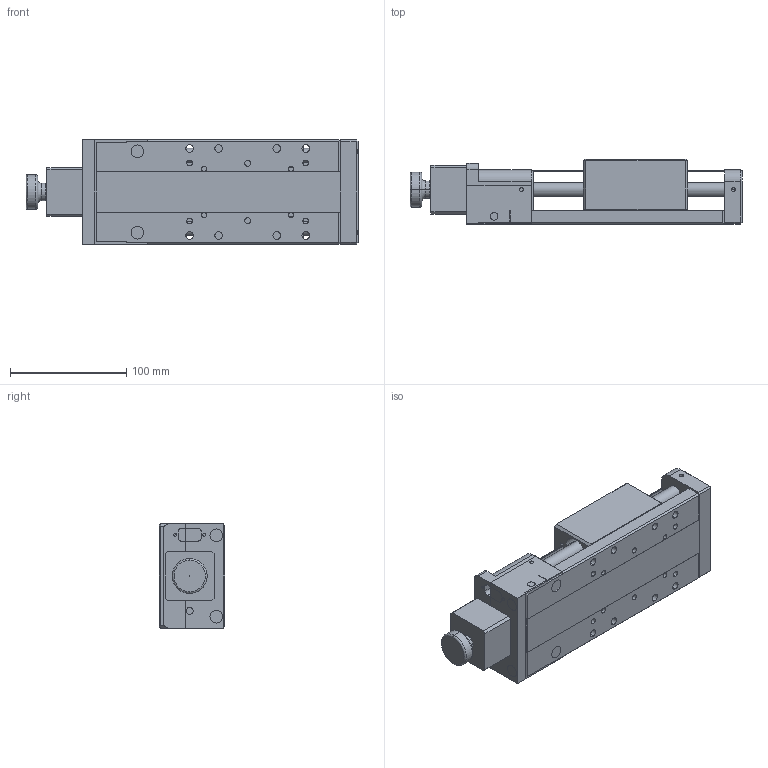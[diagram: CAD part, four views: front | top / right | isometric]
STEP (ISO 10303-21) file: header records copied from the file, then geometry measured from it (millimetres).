
FILE_DESCRIPTION (( 'STEP AP203' ), '1' );
FILE_NAME ('PP120-50装配体.STEP', '2017-01-11T08:05:49', ( '微软用户' ), ( '微软中国' ), 'SwSTEP 2.0', 'SolidWorks 2016', '' );
FILE_SCHEMA (( 'CONFIG_CONTROL_DESIGN' ));
Length unit declared in the file: millimetre
Products named in the file (7): 錨璃4^PP120-50蚾饜极; 錨璃7^PP120-50蚾饜极; 錨璃8^PP120-50蚾饜极; PP120-50蚾饜极; 錨璃5^PP120-50蚾饜极; 錨璃1^PP120-50蚾饜极; 錨璃2^PP120-50蚾饜极
Assembly tree (4 placements, depth 2):
  錨璃7^PP120-50蚾饜极
  PP120-50蚾饜极
    錨璃1^PP120-50蚾饜极
    錨璃2^PP120-50蚾饜极
    錨璃4^PP120-50蚾饜极
    錨璃8^PP120-50蚾饜极
  錨璃5^PP120-50蚾饜极
Bounding box: 286 x 56 x 90 mm (x, y, z)
Surface area: 640469.5 mm2
Topology: 8 solids, 15 shells, 2173 faces, 5325 edges, 3314 vertices
Faces by surface type: cylinder 1177, plane 691, cone 266, bspline 21, torus 18
Entity records: 75465 total; most frequent: CARTESIAN_POINT 22553, DIRECTION 11479, ORIENTED_EDGE 10294, EDGE_CURVE 5147, AXIS2_PLACEMENT_3D 4458, VERTEX_POINT 3314, EDGE_LOOP 2813, VECTOR 2563
